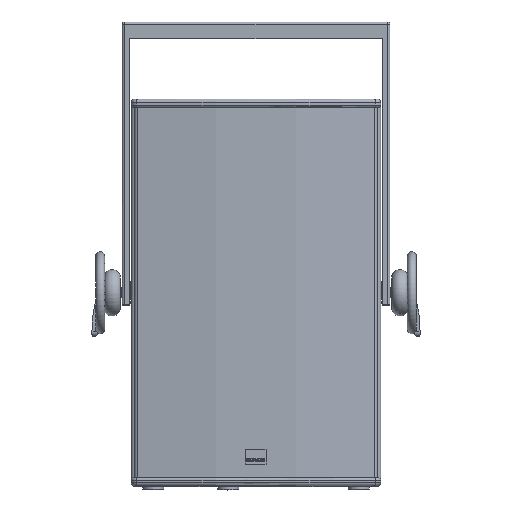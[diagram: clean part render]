
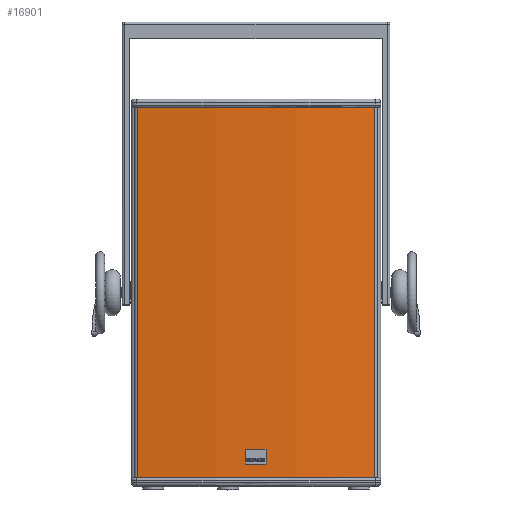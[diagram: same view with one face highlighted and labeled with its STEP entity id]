
A CAD part, top view. The second image highlights one B-rep face of the part: STEP entity #16901.
In plain terms, the highlighted cylindrical face has radius 1269.12 mm (diameter 2538.25 mm), a partial arc.
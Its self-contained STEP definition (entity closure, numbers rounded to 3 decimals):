
#1027 = CIRCLE ( 'NONE', #1281, 1269.125 ) ;
#1281 = AXIS2_PLACEMENT_3D ( 'NONE', #1550, #2054, #33123 ) ;
#1282 = CARTESIAN_POINT ( 'NONE',  ( 510.927, 24.66, 668. ) ) ;
#1550 = CARTESIAN_POINT ( 'NONE',  ( 297., 1275.625, 668. ) ) ;
#2051 = DIRECTION ( 'NONE',  ( 0., 0., -1. ) ) ;
#2052 = VECTOR ( 'NONE', #2051, 1000. ) ;
#2053 = CARTESIAN_POINT ( 'NONE',  ( 510.927, 24.66, 0. ) ) ;
#2054 = DIRECTION ( 'NONE',  ( 0., 0., 1. ) ) ;
#2055 = LINE ( 'NONE', #2053, #2052 ) ;
#2110 = DIRECTION ( 'NONE',  ( 0., 0., 1. ) ) ;
#2111 = VECTOR ( 'NONE', #2110, 1000. ) ;
#2112 = CARTESIAN_POINT ( 'NONE',  ( 83.073, 24.66, 0. ) ) ;
#2113 = LINE ( 'NONE', #2112, #2111 ) ;
#2114 = CARTESIAN_POINT ( 'NONE',  ( 83.073, 24.66, 668. ) ) ;
#2145 = CARTESIAN_POINT ( 'NONE',  ( 297., 1275.625, 0. ) ) ;
#2146 = DIRECTION ( 'NONE',  ( 1., 0., 0. ) ) ;
#2147 = DIRECTION ( 'NONE',  ( 0., 0., 1. ) ) ;
#2148 = AXIS2_PLACEMENT_3D ( 'NONE', #2149, #2147, #2146 ) ;
#2149 = CARTESIAN_POINT ( 'NONE',  ( 297., 1275.625, 0. ) ) ;
#2150 = CYLINDRICAL_SURFACE ( 'NONE', #2148, 1269.125 ) ;
#2151 = FACE_OUTER_BOUND ( 'NONE', #16852, .T. ) ;
#2200 = CARTESIAN_POINT ( 'NONE',  ( 510.927, 24.66, 0. ) ) ;
#2201 = CARTESIAN_POINT ( 'NONE',  ( 83.073, 24.66, 0. ) ) ;
#2202 = DIRECTION ( 'NONE',  ( 1., 0., 0. ) ) ;
#2203 = DIRECTION ( 'NONE',  ( 0., 0., 1. ) ) ;
#2204 = AXIS2_PLACEMENT_3D ( 'NONE', #2145, #2203, #2202 ) ;
#2205 = CIRCLE ( 'NONE', #2204, 1269.125 ) ;
#16827 = ORIENTED_EDGE ( 'NONE', *, *, #16828, .F. ) ;
#16828 = EDGE_CURVE ( 'NONE', #16829, #16905, #2055, .T. ) ;
#16829 = VERTEX_POINT ( 'NONE', #1282 ) ;
#16830 = ORIENTED_EDGE ( 'NONE', *, *, #16831, .F. ) ;
#16831 = EDGE_CURVE ( 'NONE', #16832, #16829, #1027, .T. ) ;
#16832 = VERTEX_POINT ( 'NONE', #2114 ) ;
#16833 = ORIENTED_EDGE ( 'NONE', *, *, #16834, .F. ) ;
#16834 = EDGE_CURVE ( 'NONE', #16904, #16832, #2113, .T. ) ;
#16852 = EDGE_LOOP ( 'NONE', ( #16902, #16827, #16830, #16833 ) ) ;
#16901 = ADVANCED_FACE ( 'NONE', ( #2151 ), #2150, .T. ) ;
#16902 = ORIENTED_EDGE ( 'NONE', *, *, #16903, .T. ) ;
#16903 = EDGE_CURVE ( 'NONE', #16904, #16905, #2205, .T. ) ;
#16904 = VERTEX_POINT ( 'NONE', #2201 ) ;
#16905 = VERTEX_POINT ( 'NONE', #2200 ) ;
#33123 = DIRECTION ( 'NONE',  ( 1., 0., 0. ) ) ;
